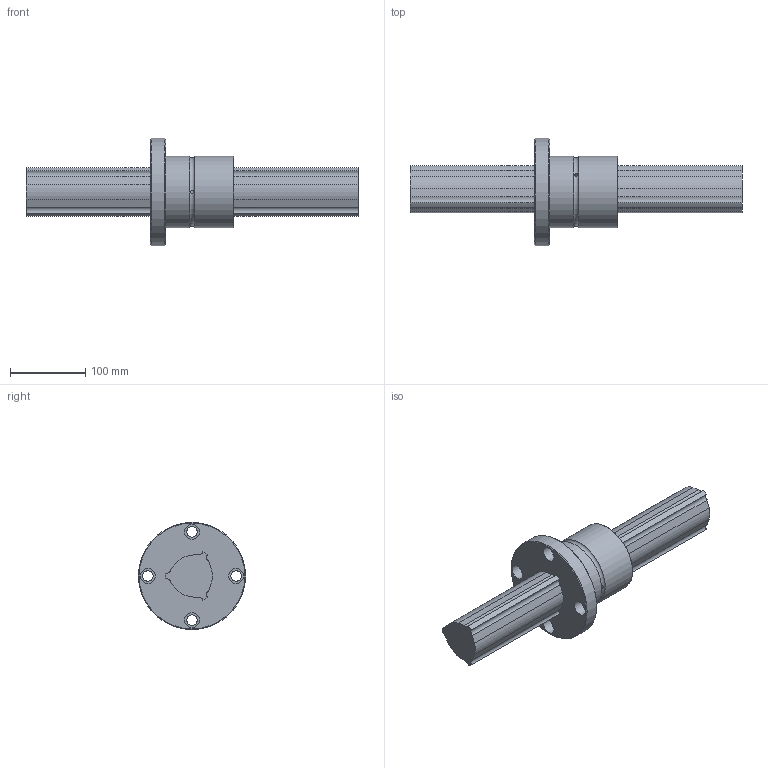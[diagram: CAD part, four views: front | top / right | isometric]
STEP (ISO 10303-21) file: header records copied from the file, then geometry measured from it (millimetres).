
FILE_DESCRIPTION(/* description */ ('STEP AP203'),/* implementation_level */ '2;1');
FILE_NAME(/* name */ 'LBF70+440L(4401650)',/* time_stamp */ '2024-05-28T03:40:58+02:00',/* author */ ('License CC BY-ND 4.0'),/* organization */ ('CADENAS'),/* preprocessor_version */ 'ST-DEVELOPER v19.3',/* originating_system */ 'PARTsolutions',/* authorisation */ ' ');
FILE_SCHEMA (('CONFIG_CONTROL_DESIGN'));
Length unit declared in the file: millimetre
Products named in the file (3): LBF70+440L(4401650); LBF701440 Spline Shaft; LBF70 Nut
Assembly tree (2 placements, depth 2):
  LBF70+440L(4401650)
    LBF701440 Spline Shaft
    LBF70 Nut
Bounding box: 440 x 142 x 142 mm (x, y, z)
Volume: 1798659 mm3; surface area: 183212.3 mm2
Topology: 2 solids, 2 shells, 66 faces, 164 edges, 110 vertices
Faces by surface type: cylinder 38, plane 24, torus 2, cone 2
Full cylindrical faces by diameter (mm): 4 x3, 14 x4, 20 x4, 95 x2, 142 x1
Entity records: 1986 total; most frequent: CARTESIAN_POINT 361, DIRECTION 350, ORIENTED_EDGE 278, AXIS2_PLACEMENT_3D 145, EDGE_CURVE 139, VERTEX_POINT 103, EDGE_LOOP 102, FACE_BOUND 102
